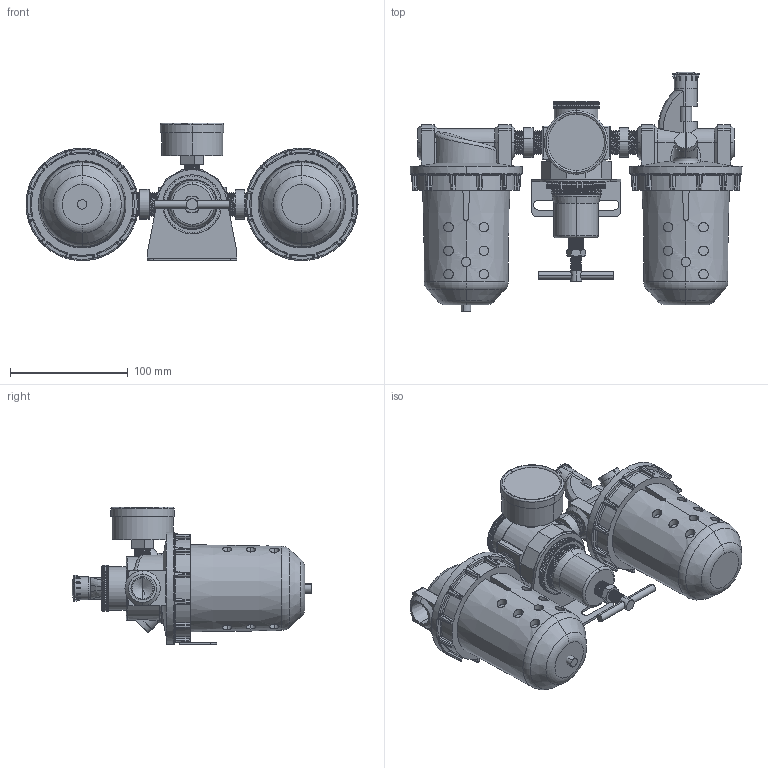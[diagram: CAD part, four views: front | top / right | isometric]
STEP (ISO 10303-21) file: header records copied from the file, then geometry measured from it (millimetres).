
FILE_DESCRIPTION (( 'STEP AP203' ), '1' );
FILE_NAME ('C668-04#YB#.STEP', '2016-01-14T17:31:27', ( '' ), ( '' ), 'SwSTEP 2.0', 'SolidWorks 2014', '' );
FILE_SCHEMA (( 'CONFIG_CONTROL_DESIGN' ));
Length unit declared in the file: millimetre
Products named in the file (24): L606-04; R010-2; C668-04#YB#; KWSAR10Y57; 50-P-AD=1-4PT.SLDPRT; L606-W-06-3; 50-P-AD=1-4PT-2; 50-P-AD=1-4PT-1; KWR10X51; F602-04-下; L606-W-06-5; R011-1; KWSAR10Y57-1; R119-02-7; 1-2-圓; L606-W-04-1; R010-1; R119-02-5; L606-W-06-4; R011-02GB#; F602-04-上; R119-02-6; F602-04#YB#
Assembly tree (25 placements, depth 4):
  C668-04#YB#
    F602-04#YB#
      L606-W-06-5
      F602-04-上
      F602-04-下
    R011-02GB#
      R010-1
      R010-2
      KWSAR10Y57
        KWSAR10Y57-1
        KWR10X51
      R011-1
      R119-02-5
      R119-02-6
      R119-02-7
      50-P-AD=1-4PT.SLDPRT
        50-P-AD=1-4PT-1
        50-P-AD=1-4PT-2
    L606-04
      L606-W-06-4
      L606-W-06-3  x2
      L606-W-04-1
      L606-04
    1-2-圓  x2
Bounding box: 282.25 x 204 x 117 mm (x, y, z)
Volume: 1469029.4 mm3; surface area: 193837.8 mm2
Topology: 20 solids, 20 shells, 1644 faces, 4348 edges, 2730 vertices
Faces by surface type: plane 586, cylinder 503, bspline 220, cone 200, torus 71, sphere 64
Entity records: 72581 total; most frequent: CARTESIAN_POINT 33824, ORIENTED_EDGE 8268, DIRECTION 6796, EDGE_CURVE 4134, VERTEX_POINT 2634, AXIS2_PLACEMENT_3D 2530, LINE 1736, VECTOR 1736
